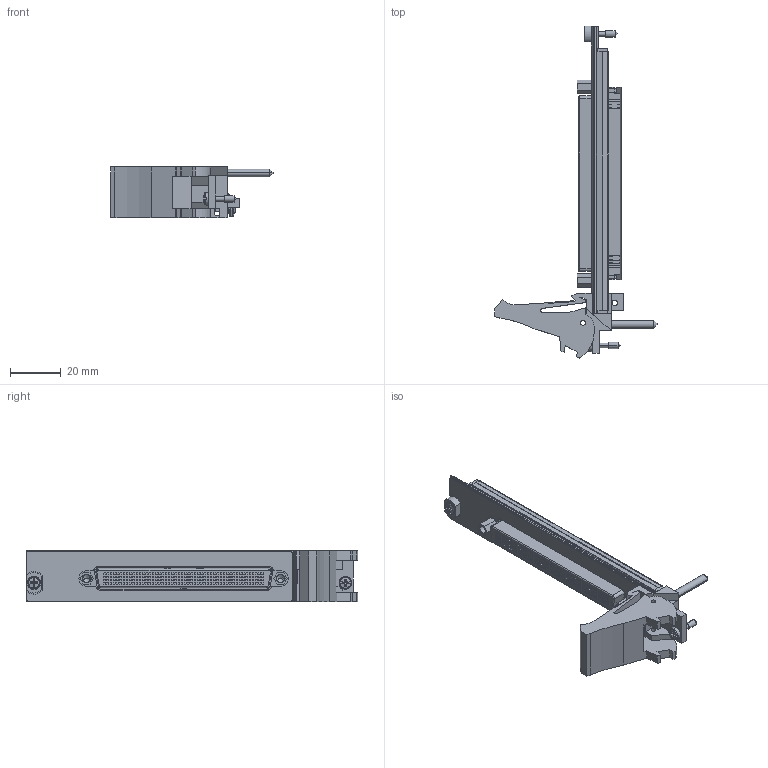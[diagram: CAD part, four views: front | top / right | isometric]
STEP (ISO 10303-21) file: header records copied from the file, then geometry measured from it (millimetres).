
FILE_DESCRIPTION((''),'2;1');
FILE_NAME('CU_PXI-2569','2009-09-01T',('jjorden'),(''),'PRO/ENGINEER BY PARAMETRIC TECHNOLOGY CORPORATION, 2006080','PRO/ENGINEER BY PARAMETRIC TECHNOLOGY CORPORATION, 2006080','');
FILE_SCHEMA(('CONFIG_CONTROL_DESIGN'));
Products named in the file (1): CU_PXI-2569
Bounding box: 63.73 x 130.5 x 20.31 mm (x, y, z)
Volume: 18838.4 mm3; surface area: 23243.7 mm2
Topology: 2 solids, 2 shells, 2303 faces, 6108 edges, 4038 vertices
Faces by surface type: plane 2141, cylinder 124, cone 26, torus 8, sphere 4
Entity records: 70339 total; most frequent: CARTESIAN_POINT 12656, ORIENTED_EDGE 12200, DIRECTION 10985, EDGE_CURVE 6100, VECTOR 5767, LINE 5767, VERTEX_POINT 4038, EDGE_LOOP 2614
